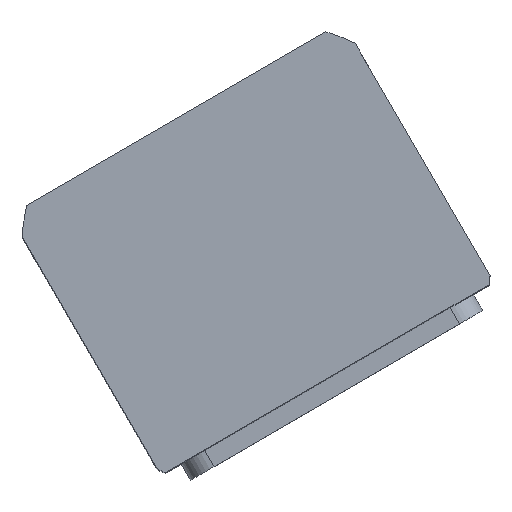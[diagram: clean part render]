
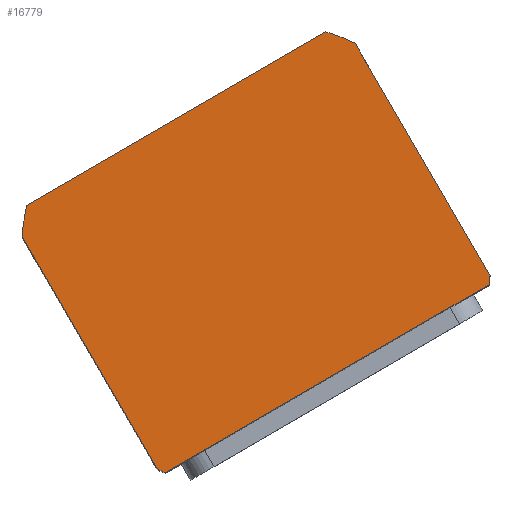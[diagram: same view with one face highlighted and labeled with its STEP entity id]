
A CAD part, top view. The second image highlights one B-rep face of the part: STEP entity #16779.
In plain terms, the highlighted planar face has unit normal (0, 0, 1) as drawn and (0, 0, -1) by its records, which use the part's own axes.
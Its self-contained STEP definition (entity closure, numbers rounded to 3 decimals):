
#77 = CARTESIAN_POINT ( 'NONE',  ( -57., -37.265, 0. ) ) ;
#119 = CARTESIAN_POINT ( 'NONE',  ( 57., 44.5, 0. ) ) ;
#562 = AXIS2_PLACEMENT_3D ( 'NONE', #19262, #8662, #21029 ) ;
#902 = ORIENTED_EDGE ( 'NONE', *, *, #16457, .F. ) ;
#1136 = CARTESIAN_POINT ( 'NONE',  ( 0., 2.5, 0. ) ) ;
#1257 = EDGE_CURVE ( 'NONE', #5555, #3752, #12698, .T. ) ;
#1455 = EDGE_CURVE ( 'NONE', #17457, #5555, #15726, .T. ) ;
#1714 = LINE ( 'NONE', #10524, #5854 ) ;
#1718 = DIRECTION ( 'NONE',  ( 1., 0., 0. ) ) ;
#1965 = ORIENTED_EDGE ( 'NONE', *, *, #9706, .F. ) ;
#2130 = CARTESIAN_POINT ( 'NONE',  ( 0., 2.5, 0. ) ) ;
#2800 = CARTESIAN_POINT ( 'NONE',  ( -57., -44.5, 0. ) ) ;
#2922 = DIRECTION ( 'NONE',  ( 1., 0., 0. ) ) ;
#2924 = FACE_OUTER_BOUND ( 'NONE', #6094, .T. ) ;
#3120 = DIRECTION ( 'NONE',  ( 0., -1., 0. ) ) ;
#3752 = VERTEX_POINT ( 'NONE', #77 ) ;
#3779 = DIRECTION ( 'NONE',  ( 0., 1., 0. ) ) ;
#3904 = DIRECTION ( 'NONE',  ( 1., 0., 0. ) ) ;
#4618 = VERTEX_POINT ( 'NONE', #14383 ) ;
#5191 = CARTESIAN_POINT ( 'NONE',  ( 57., 42.265, 0. ) ) ;
#5457 = CARTESIAN_POINT ( 'NONE',  ( -57., 44.5, 0. ) ) ;
#5555 = VERTEX_POINT ( 'NONE', #19797 ) ;
#5660 = VERTEX_POINT ( 'NONE', #14609 ) ;
#5854 = VECTOR ( 'NONE', #21104, 1000. ) ;
#6094 = EDGE_LOOP ( 'NONE', ( #9148, #16613, #17453, #11915, #902, #16357, #13662, #1965 ) ) ;
#6180 = AXIS2_PLACEMENT_3D ( 'NONE', #2130, #14500, #3904 ) ;
#6986 = DIRECTION ( 'NONE',  ( 1., 0., 0. ) ) ;
#7437 = VECTOR ( 'NONE', #3120, 1000. ) ;
#8113 = CARTESIAN_POINT ( 'NONE',  ( -55.374, 44.5, 0. ) ) ;
#8399 = VERTEX_POINT ( 'NONE', #10020 ) ;
#8581 = AXIS2_PLACEMENT_3D ( 'NONE', #22884, #12323, #1718 ) ;
#8662 = DIRECTION ( 'NONE',  ( 0., 0., 1. ) ) ;
#9148 = ORIENTED_EDGE ( 'NONE', *, *, #15619, .F. ) ;
#9706 = EDGE_CURVE ( 'NONE', #20009, #17457, #1714, .T. ) ;
#9841 = EDGE_CURVE ( 'NONE', #8399, #16496, #14166, .T. ) ;
#10020 = CARTESIAN_POINT ( 'NONE',  ( 57., -37.265, 0. ) ) ;
#10524 = CARTESIAN_POINT ( 'NONE',  ( -57., 44.5, 0. ) ) ;
#11010 = CARTESIAN_POINT ( 'NONE',  ( 55.374, 44.5, 0. ) ) ;
#11346 = CIRCLE ( 'NONE', #17791, 69.5 ) ;
#11915 = ORIENTED_EDGE ( 'NONE', *, *, #18748, .F. ) ;
#12055 = LINE ( 'NONE', #2800, #21972 ) ;
#12257 = CARTESIAN_POINT ( 'NONE',  ( 0., 0., 0. ) ) ;
#12323 = DIRECTION ( 'NONE',  ( 0., 0., 1. ) ) ;
#12698 = LINE ( 'NONE', #5457, #7437 ) ;
#13407 = DIRECTION ( 'NONE',  ( 1., 0., 0. ) ) ;
#13456 = CIRCLE ( 'NONE', #8581, 69.5 ) ;
#13535 = DIRECTION ( 'NONE',  ( 0., 0., 1. ) ) ;
#13662 = ORIENTED_EDGE ( 'NONE', *, *, #1455, .F. ) ;
#14166 = LINE ( 'NONE', #119, #19428 ) ;
#14383 = CARTESIAN_POINT ( 'NONE',  ( 51.198, -44.5, 0. ) ) ;
#14500 = DIRECTION ( 'NONE',  ( 0., 0., 1. ) ) ;
#14609 = CARTESIAN_POINT ( 'NONE',  ( -51.198, -44.5, 0. ) ) ;
#15619 = EDGE_CURVE ( 'NONE', #16496, #20009, #11346, .T. ) ;
#15726 = CIRCLE ( 'NONE', #6180, 69.5 ) ;
#15815 = PLANE ( 'NONE',  #20422 ) ;
#16357 = ORIENTED_EDGE ( 'NONE', *, *, #1257, .F. ) ;
#16457 = EDGE_CURVE ( 'NONE', #3752, #5660, #13456, .T. ) ;
#16496 = VERTEX_POINT ( 'NONE', #5191 ) ;
#16613 = ORIENTED_EDGE ( 'NONE', *, *, #9841, .F. ) ;
#16779 = ADVANCED_FACE ( 'NONE', ( #2924 ), #15815, .F. ) ;
#17453 = ORIENTED_EDGE ( 'NONE', *, *, #17707, .F. ) ;
#17457 = VERTEX_POINT ( 'NONE', #8113 ) ;
#17600 = DIRECTION ( 'NONE',  ( 0., 0., 1. ) ) ;
#17707 = EDGE_CURVE ( 'NONE', #4618, #8399, #19810, .T. ) ;
#17791 = AXIS2_PLACEMENT_3D ( 'NONE', #1136, #13535, #2922 ) ;
#18748 = EDGE_CURVE ( 'NONE', #5660, #4618, #12055, .T. ) ;
#19262 = CARTESIAN_POINT ( 'NONE',  ( 0., 2.5, 0. ) ) ;
#19428 = VECTOR ( 'NONE', #3779, 1000. ) ;
#19797 = CARTESIAN_POINT ( 'NONE',  ( -57., 42.265, 0. ) ) ;
#19810 = CIRCLE ( 'NONE', #562, 69.5 ) ;
#20009 = VERTEX_POINT ( 'NONE', #11010 ) ;
#20422 = AXIS2_PLACEMENT_3D ( 'NONE', #12257, #17600, #6986 ) ;
#21029 = DIRECTION ( 'NONE',  ( 1., 0., 0. ) ) ;
#21104 = DIRECTION ( 'NONE',  ( -1., 0., 0. ) ) ;
#21972 = VECTOR ( 'NONE', #13407, 1000. ) ;
#22884 = CARTESIAN_POINT ( 'NONE',  ( 0., 2.5, 0. ) ) ;
